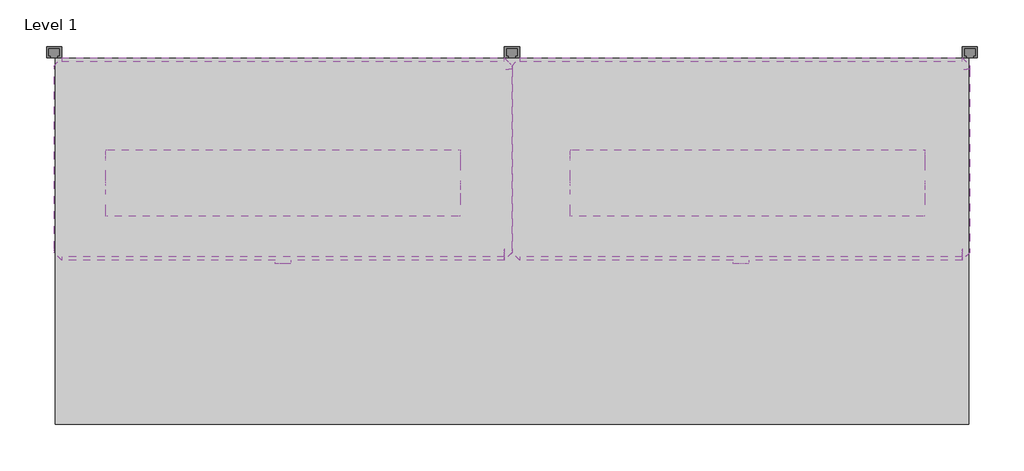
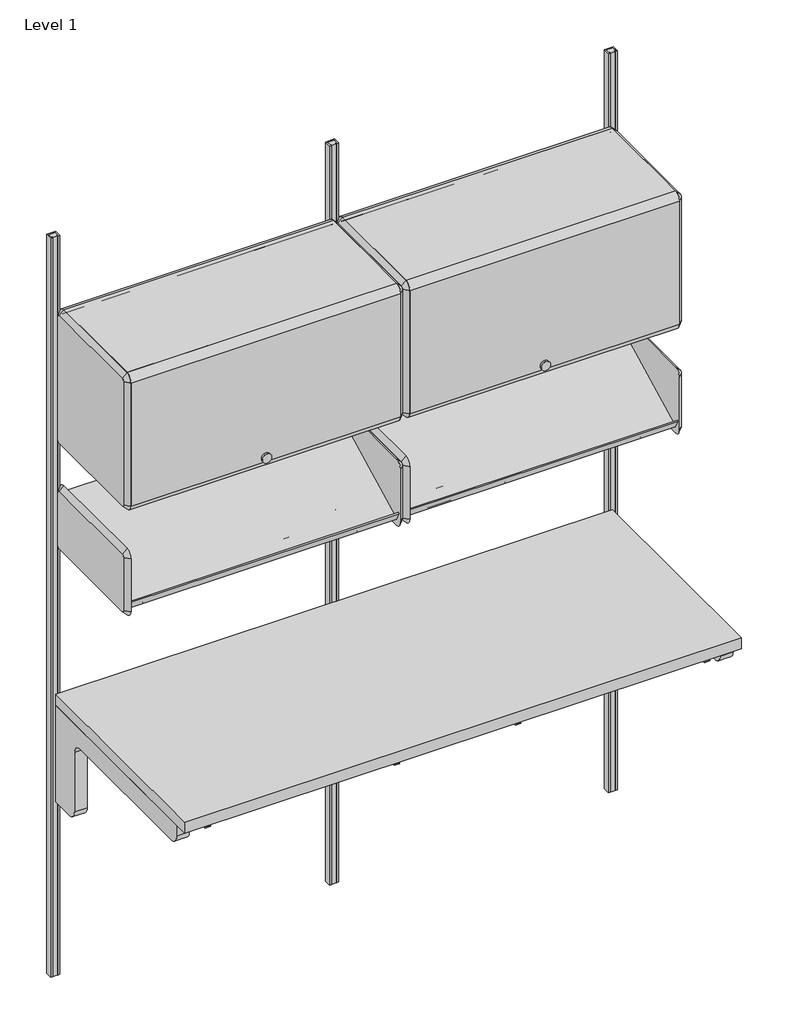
# One storey: 9 furniture elements, 2 light fixtures.
"""IFC4 building model written with IfcOpenShell, lengths in millimetres."""

from ifc_helpers import new_model, si_unit, origin, place, context, project, spatial, transform, mapped, element, save
from components import furniture_0d5b5ade, furniture_f2a341e6, furniture_d659d24b, furniture_e3423f84, furniture_ea425779, light_fixture_b5f3cc62

model = new_model("IFC4")

# Units and contexts
model_context = context("Model", 3, world=origin())
ifc_project = project(units=[si_unit("LENGTHUNIT", "METRE", prefix="MILLI")], contexts=[model_context])

# Site, building, storey
site = spatial("IfcSite", under=ifc_project)
building = spatial("IfcBuilding", under=site)
storey = spatial("IfcBuildingStorey", under=building, Name="Level 1", Elevation=0.0)

# Furniture
placement = place(None, origin())
furniture_shape = furniture_0d5b5ade(model_context)
element("IfcFurniture", 1, ObjectType="HermanMiller_ActionOffice_A3352_B-StyleFlipperDoorUnit : 15 1/2\"H x 13\"D x 30\"W", at=placement, inside=storey, context=model_context, shape_type="MappedRepresentation", body=[
    mapped(furniture_shape, transform((1143.0, -200.025, 0.0), x_axis=(1.0, 0.0, 0.0), y_axis=(0.0, 1.0, 0.0), z_axis=(0.0, 0.0, 1.0))),
])
element("IfcFurniture", 2, ObjectType="HermanMiller_ActionOffice_A3352_B-StyleFlipperDoorUnit : 15 1/2\"H x 13\"D x 30\"W", at=placement, inside=storey, context=model_context, shape_type="MappedRepresentation", body=[
    mapped(furniture_shape, transform((381.0, -200.025, 0.0), x_axis=(1.0, 0.0, 0.0), y_axis=(0.0, 1.0, 0.0), z_axis=(0.0, 0.0, 1.0))),
])
furniture_2_shape = furniture_f2a341e6(model_context)
element("IfcFurniture", 3, ObjectType="HermanMiller_CoStruc_C2141_Heavy-DutyWorkSurface : 24\"D x 60\"W Lam", at=placement, inside=storey, context=model_context, shape_type="MappedRepresentation", body=[
    mapped(furniture_2_shape, transform((304.8, -196.85, 0.0), x_axis=(1.0, 0.0, 0.0), y_axis=(0.0, 1.0, 0.0), z_axis=(0.0, 0.0, 1.0))),
])
furniture_3_shape = furniture_d659d24b(model_context)
element("IfcFurniture", 4, ObjectType="HermanMiller_CoStruc_C2140H_WorkSurfaceSupport_Heavy Duty : 11\"H x 24\"D x 60\"W", at=placement, inside=storey, context=model_context, shape_type="MappedRepresentation", body=[
    mapped(furniture_3_shape, transform((762.0, -196.85, 0.0), x_axis=(1.0, 0.0, 0.0), y_axis=(0.0, 1.0, 0.0), z_axis=(0.0, 0.0, 1.0))),
])
furniture_4_shape = furniture_e3423f84(model_context)
element("IfcFurniture", 5, ObjectType="HermanMiller_ActionOffice_A3220_B-StyleStorageDisplay : Display 13\"D x 30\"W", at=placement, inside=storey, context=model_context, shape_type="MappedRepresentation", body=[
    mapped(furniture_4_shape, transform((1266.9420045, -200.025, 0.0), x_axis=(1.0, 0.0, 0.0), y_axis=(0.0, 1.0, 0.0), z_axis=(0.0, 0.0, 1.0))),
])
element("IfcFurniture", 6, ObjectType="HermanMiller_ActionOffice_A3220_B-StyleStorageDisplay : Display 13\"D x 30\"W", at=placement, inside=storey, context=model_context, shape_type="MappedRepresentation", body=[
    mapped(furniture_4_shape, transform((504.9420045, -200.025, 0.0), x_axis=(1.0, 0.0, 0.0), y_axis=(0.0, 1.0, 0.0), z_axis=(0.0, 0.0, 1.0))),
])
furniture_5_shape = furniture_ea425779(model_context)
element("IfcFurniture", 7, ObjectType="HermanMiller_ActionOffice_AO213_WallStrip : 84\"H", at=placement, inside=storey, context=model_context, shape_type="MappedRepresentation", body=[
    mapped(furniture_5_shape, transform((1523.9928164, 0.0, 0.0), x_axis=(1.0, 0.0, 0.0), y_axis=(0.0, 1.0, 0.0), z_axis=(0.0, 0.0, 1.0))),
])
element("IfcFurniture", 8, ObjectType="HermanMiller_ActionOffice_AO213_WallStrip : 84\"H", at=placement, inside=storey, context=model_context, shape_type="MappedRepresentation", body=[
    mapped(furniture_5_shape, transform((762.0, 0.0, 0.0), x_axis=(1.0, 0.0, 0.0), y_axis=(0.0, 1.0, 0.0), z_axis=(0.0, 0.0, 1.0))),
])
element("IfcFurniture", 9, ObjectType="HermanMiller_ActionOffice_AO213_WallStrip : 84\"H", at=placement, inside=storey, context=model_context, shape_type="MappedRepresentation", body=[
    mapped(furniture_5_shape, transform((0.0, 0.0, 0.0), x_axis=(1.0, 0.0, 0.0), y_axis=(0.0, 1.0, 0.0), z_axis=(0.0, 0.0, 1.0))),
])

# Light fixtures
light_fixture_shape = light_fixture_b5f3cc62(model_context)
element("IfcLightFixture", 10, ObjectType="HermanMiller_SupplementalProducts_G6136_UtilityTaskLight : AO Etho Canvas 30W", at=placement, inside=storey, context=model_context, shape_type="MappedRepresentation", body=[
    mapped(light_fixture_shape, transform((1154.3665, -227.0125, 0.0), x_axis=(-1.0, 0.0, 0.0), y_axis=(0.0, -1.0, 0.0), z_axis=(0.0, 0.0, 1.0))),
])
element("IfcLightFixture", 11, ObjectType="HermanMiller_SupplementalProducts_G6136_UtilityTaskLight : AO Etho Canvas 30W", at=placement, inside=storey, context=model_context, shape_type="MappedRepresentation", body=[
    mapped(light_fixture_shape, transform((381.0, -227.0125, 0.0), x_axis=(-1.0, 0.0, 0.0), y_axis=(0.0, -1.0, 0.0), z_axis=(0.0, 0.0, 1.0))),
])

save(model, "model.ifc")
